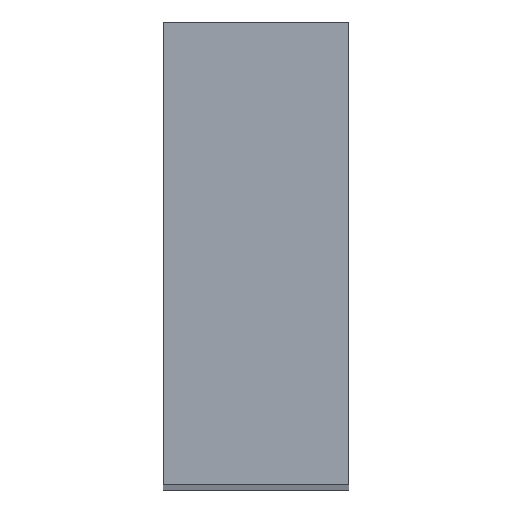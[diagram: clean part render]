
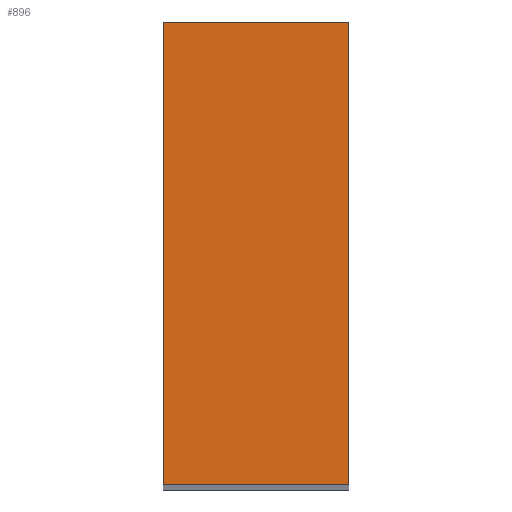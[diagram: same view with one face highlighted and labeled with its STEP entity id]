
A CAD part, top view. The second image highlights one B-rep face of the part: STEP entity #896.
In plain terms, the highlighted planar face has unit normal (0, 0, 1).
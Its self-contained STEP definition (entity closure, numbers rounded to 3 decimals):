
#33 = FACE_OUTER_BOUND ( 'NONE', #620, .T. ) ;
#37 = EDGE_CURVE ( 'NONE', #124, #41, #136, .T. ) ;
#41 = VERTEX_POINT ( 'NONE', #926 ) ;
#46 = VECTOR ( 'NONE', #999, 1000. ) ;
#85 = ORIENTED_EDGE ( 'NONE', *, *, #607, .T. ) ;
#113 = CARTESIAN_POINT ( 'NONE',  ( 0., 0., 62.5 ) ) ;
#124 = VERTEX_POINT ( 'NONE', #154 ) ;
#136 = LINE ( 'NONE', #547, #365 ) ;
#139 = CARTESIAN_POINT ( 'NONE',  ( 0., 0., 62.5 ) ) ;
#154 = CARTESIAN_POINT ( 'NONE',  ( 8., 0., 62.5 ) ) ;
#168 = ORIENTED_EDGE ( 'NONE', *, *, #649, .T. ) ;
#178 = DIRECTION ( 'NONE',  ( 1., 0., 0. ) ) ;
#228 = EDGE_CURVE ( 'NONE', #41, #610, #582, .T. ) ;
#274 = VERTEX_POINT ( 'NONE', #703 ) ;
#319 = DIRECTION ( 'NONE',  ( -1., 0., 0. ) ) ;
#365 = VECTOR ( 'NONE', #850, 1000. ) ;
#391 = LINE ( 'NONE', #139, #834 ) ;
#465 = CARTESIAN_POINT ( 'NONE',  ( 0., 20., 62.5 ) ) ;
#467 = CARTESIAN_POINT ( 'NONE',  ( 0., 20., 62.5 ) ) ;
#491 = LINE ( 'NONE', #465, #46 ) ;
#547 = CARTESIAN_POINT ( 'NONE',  ( 8., 0., 62.5 ) ) ;
#579 = PLANE ( 'NONE',  #663 ) ;
#582 = LINE ( 'NONE', #467, #861 ) ;
#607 = EDGE_CURVE ( 'NONE', #610, #274, #491, .T. ) ;
#610 = VERTEX_POINT ( 'NONE', #621 ) ;
#620 = EDGE_LOOP ( 'NONE', ( #873, #85, #168, #831 ) ) ;
#621 = CARTESIAN_POINT ( 'NONE',  ( 0., 20., 62.5 ) ) ;
#649 = EDGE_CURVE ( 'NONE', #274, #124, #391, .T. ) ;
#663 = AXIS2_PLACEMENT_3D ( 'NONE', #113, #956, #178 ) ;
#699 = DIRECTION ( 'NONE',  ( 1., 0., 0. ) ) ;
#703 = CARTESIAN_POINT ( 'NONE',  ( 0., 0., 62.5 ) ) ;
#831 = ORIENTED_EDGE ( 'NONE', *, *, #37, .T. ) ;
#834 = VECTOR ( 'NONE', #699, 1000. ) ;
#850 = DIRECTION ( 'NONE',  ( 0., 1., 0. ) ) ;
#861 = VECTOR ( 'NONE', #319, 1000. ) ;
#873 = ORIENTED_EDGE ( 'NONE', *, *, #228, .T. ) ;
#896 = ADVANCED_FACE ( 'NONE', ( #33 ), #579, .T. ) ;
#926 = CARTESIAN_POINT ( 'NONE',  ( 8., 20., 62.5 ) ) ;
#956 = DIRECTION ( 'NONE',  ( 0., 0., 1. ) ) ;
#999 = DIRECTION ( 'NONE',  ( 0., -1., 0. ) ) ;
